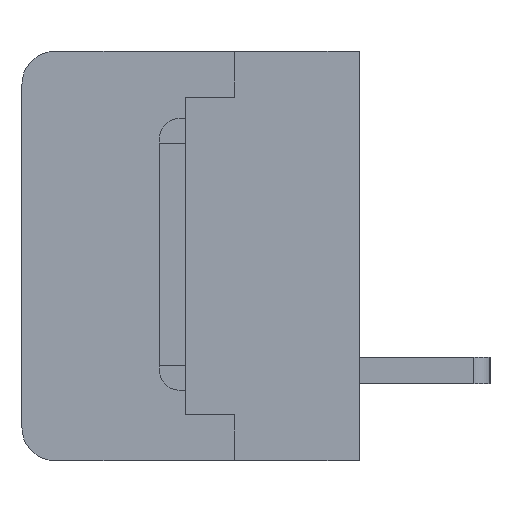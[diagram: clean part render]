
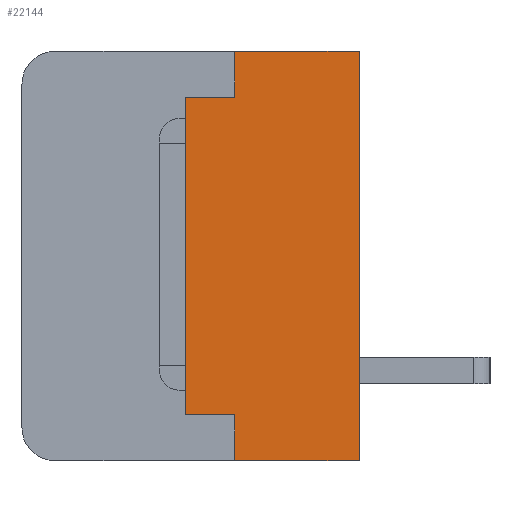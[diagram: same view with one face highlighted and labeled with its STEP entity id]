
A CAD part, left-side view. The second image highlights one B-rep face of the part: STEP entity #22144.
In plain terms, the highlighted planar face has unit normal (-1, 0, 0).
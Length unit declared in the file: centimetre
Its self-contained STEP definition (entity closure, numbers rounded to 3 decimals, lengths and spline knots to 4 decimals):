
#1360=PLANE('',#36393);
#2080=VECTOR('',#23435,1.);
#2175=VECTOR('',#23574,1.);
#2205=VECTOR('',#23607,1.);
#2234=VECTOR('',#23637,1.);
#3437=VECTOR('',#26400,1.);
#3438=VECTOR('',#26401,1.);
#3439=VECTOR('',#26402,1.);
#3440=VECTOR('',#26403,1.);
#4416=LINE('',#29065,#2080);
#4511=LINE('',#29274,#2175);
#4541=LINE('',#29336,#2205);
#4570=LINE('',#29393,#2234);
#5773=LINE('',#33566,#3437);
#5774=LINE('',#33568,#3438);
#5775=LINE('',#33569,#3439);
#5776=LINE('',#33571,#3440);
#6688=VERTEX_POINT('',#29064);
#6689=VERTEX_POINT('',#29066);
#6738=VERTEX_POINT('',#29206);
#6771=VERTEX_POINT('',#29273);
#6801=VERTEX_POINT('',#29335);
#6829=VERTEX_POINT('',#29394);
#7988=VERTEX_POINT('',#33567);
#7989=VERTEX_POINT('',#33570);
#9523=EDGE_CURVE('',#6688,#6689,#4416,.T.);
#9627=EDGE_CURVE('',#6771,#6738,#4511,.T.);
#9658=EDGE_CURVE('',#6738,#6801,#4541,.T.);
#9687=EDGE_CURVE('',#6801,#6829,#4570,.T.);
#11490=EDGE_CURVE('',#7988,#6771,#5773,.T.);
#11491=EDGE_CURVE('',#6689,#7988,#5774,.T.);
#11492=EDGE_CURVE('',#7989,#6688,#5775,.T.);
#11493=EDGE_CURVE('',#6829,#7989,#5776,.T.);
#17475=ORIENTED_EDGE('',*,*,#11490,.F.);
#17476=ORIENTED_EDGE('',*,*,#11491,.F.);
#17477=ORIENTED_EDGE('',*,*,#9523,.F.);
#17478=ORIENTED_EDGE('',*,*,#11492,.F.);
#17479=ORIENTED_EDGE('',*,*,#11493,.F.);
#17480=ORIENTED_EDGE('',*,*,#9687,.F.);
#17481=ORIENTED_EDGE('',*,*,#9658,.F.);
#17482=ORIENTED_EDGE('',*,*,#9627,.F.);
#19593=EDGE_LOOP('',(#17475,#17476,#17477,#17478,#17479,#17480,#17481,#17482));
#20915=FACE_BOUND('',#19593,.T.);
#22144=ADVANCED_FACE('',(#20915),#1360,.F.);
#23435=DIRECTION('',(0.,0.,1.));
#23574=DIRECTION('',(0.,-1.,0.));
#23607=DIRECTION('',(0.,0.,-1.));
#23637=DIRECTION('',(0.,1.,0.));
#26399=DIRECTION('',(1.,0.,0.));
#26400=DIRECTION('',(0.,0.,1.));
#26401=DIRECTION('',(0.,-1.,0.));
#26402=DIRECTION('',(0.,1.,0.));
#26403=DIRECTION('',(0.,0.,1.));
#29064=CARTESIAN_POINT('',(-1.382,0.53,-0.485));
#29065=CARTESIAN_POINT('',(-1.382,0.53,-0.485));
#29066=CARTESIAN_POINT('',(-1.382,0.53,0.485));
#29206=CARTESIAN_POINT('',(-1.382,0.,0.625));
#29273=CARTESIAN_POINT('',(-1.382,0.38,0.625));
#29274=CARTESIAN_POINT('',(-1.382,0.38,0.625));
#29335=CARTESIAN_POINT('',(-1.382,0.,-0.625));
#29336=CARTESIAN_POINT('',(-1.382,0.,0.625));
#29393=CARTESIAN_POINT('',(-1.382,0.,-0.625));
#29394=CARTESIAN_POINT('',(-1.382,0.38,-0.625));
#33565=CARTESIAN_POINT('',(-1.382,0.2532,0.));
#33566=CARTESIAN_POINT('',(-1.382,0.38,0.485));
#33567=CARTESIAN_POINT('',(-1.382,0.38,0.485));
#33568=CARTESIAN_POINT('',(-1.382,0.53,0.485));
#33569=CARTESIAN_POINT('',(-1.382,0.38,-0.485));
#33570=CARTESIAN_POINT('',(-1.382,0.38,-0.485));
#33571=CARTESIAN_POINT('',(-1.382,0.38,-0.625));
#36393=AXIS2_PLACEMENT_3D('',#33565,#26399,$);
